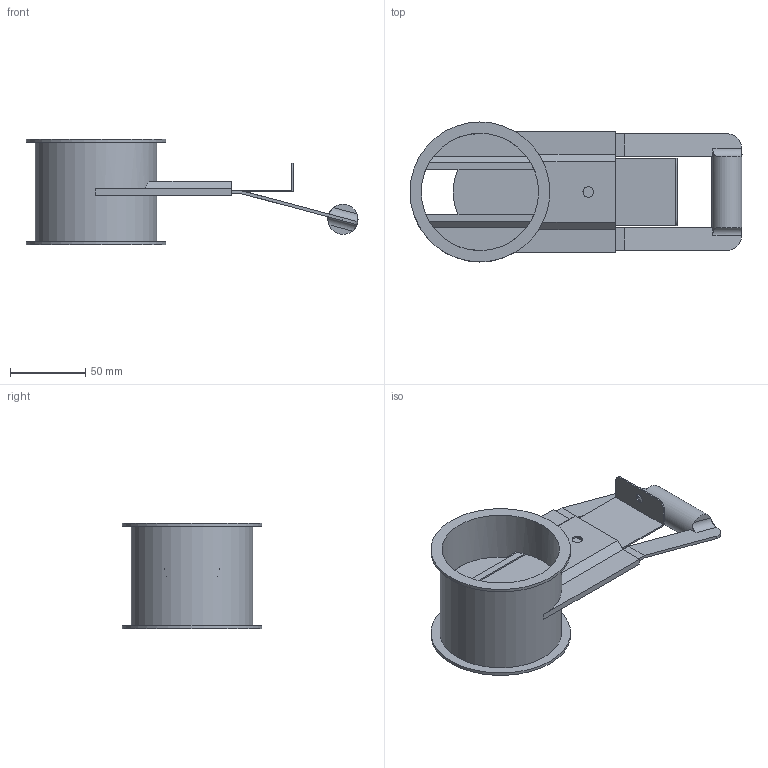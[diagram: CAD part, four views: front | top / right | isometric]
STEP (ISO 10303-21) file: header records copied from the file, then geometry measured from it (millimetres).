
FILE_DESCRIPTION((''),'2;1');
FILE_NAME('U:\Wolfgang\Marcel-3D\fertig\Kapitel 9\0811079.stp','2011-10-11T12:58:19',('iwienholt'),(''),'Autodesk Inventor 2010','Autodesk Inventor 2010','');
FILE_SCHEMA(('AUTOMOTIVE_DESIGN { 1 0 10303 214 1 1 1 1 }'));
Length unit declared in the file: millimetre
Products named in the file (4): 0811079; Dosierzunge DN80; Rohr mit Führung DN80; Schieberblech DN80
Assembly tree (3 placements, depth 2):
  0811079
    Dosierzunge DN80
    Rohr mit Führung DN80
    Schieberblech DN80
Bounding box: 220.76 x 93 x 70 mm (x, y, z)
Volume: 82679.9 mm3; surface area: 106458.5 mm2
Topology: 3 solids, 3 shells, 86 faces, 242 edges, 161 vertices
Faces by surface type: plane 59, cylinder 19, bspline 8
Full cylindrical faces by diameter (mm): 20 x1, 78 x1, 81 x1, 93 x2
Entity records: 2947 total; most frequent: CARTESIAN_POINT 634, ORIENTED_EDGE 458, DIRECTION 455, EDGE_CURVE 229, VECTOR 157, LINE 157, VERTEX_POINT 156, AXIS2_PLACEMENT_3D 149
